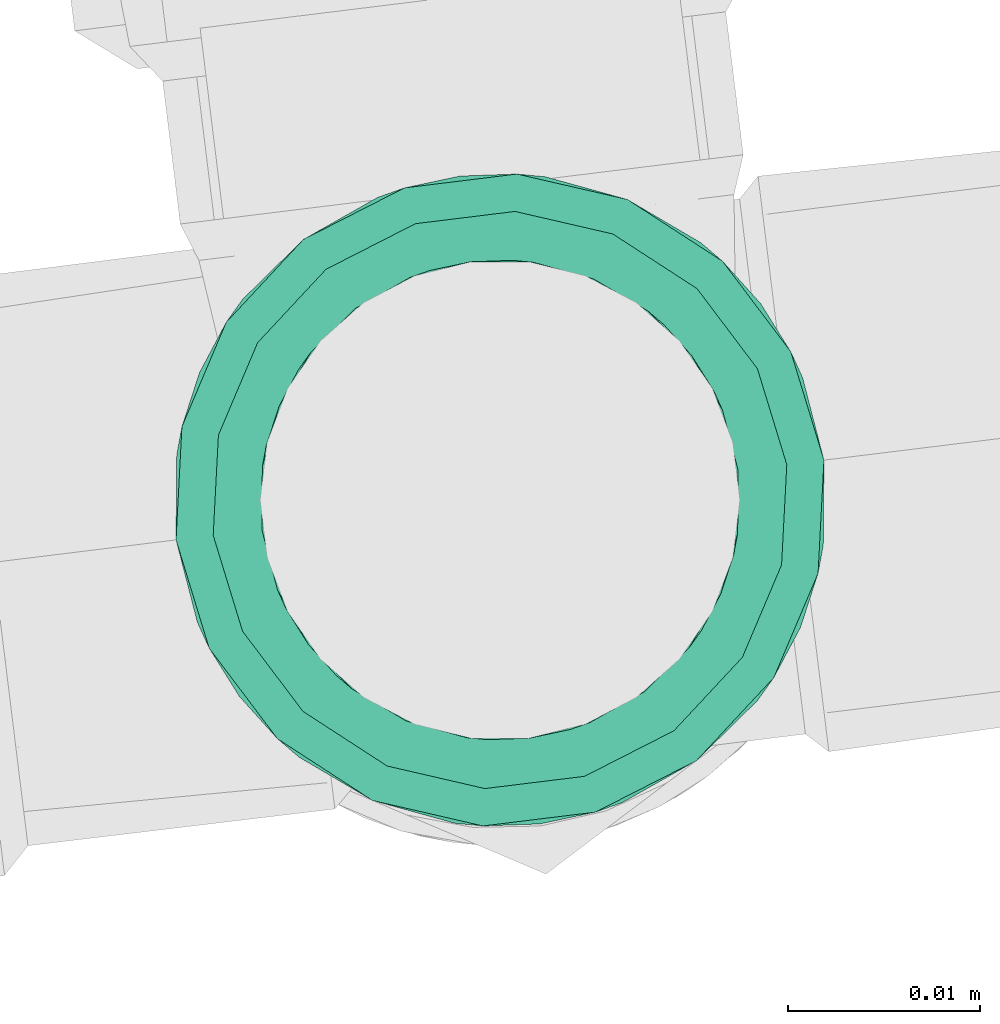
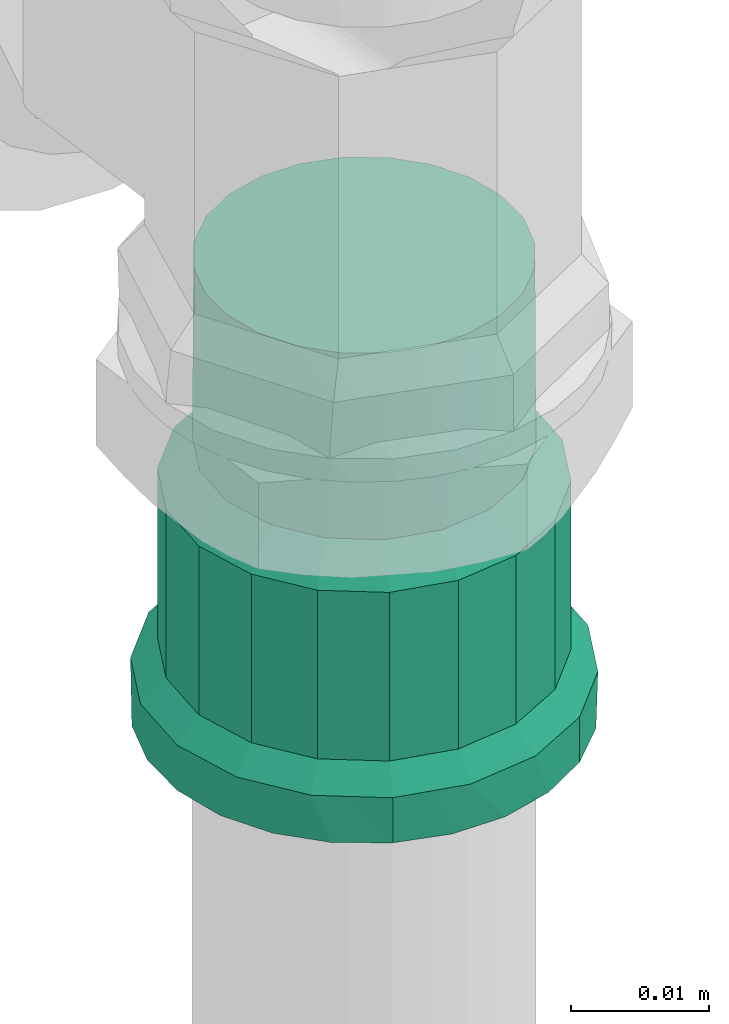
# One storey, part 88 of 97: 1 flow fitting.
"""IFC2X3 building model written with IfcOpenShell, lengths in centimetres."""

from ifc_helpers import new_model, entity, si_unit, converted_unit, derived_unit, direction, frame, origin, place, context, subcontext, project, spatial, faceted_brep, source, transform, mapped, material, type_object, type_shapes, element, save


model = new_model("IFC2X3")

# Units and contexts
model_context = context("Model", 3, precision=0.001, world=origin(), true_north=direction((6.12303176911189e-17, 1.0)))
body_context = subcontext(model_context, "Body", "Model", "MODEL_VIEW")
ifc_project = project(units=[si_unit("LENGTHUNIT", "METRE", prefix="CENTI"), si_unit("AREAUNIT", "SQUARE_METRE"), si_unit("VOLUMEUNIT", "CUBIC_METRE"), converted_unit("PLANEANGLEUNIT", "DEGREE", entity("IfcRatioMeasure", 0.0174532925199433), si_unit("PLANEANGLEUNIT", "RADIAN"), dimensions=[0, 0, 0, 0, 0, 0, 0]), si_unit("MASSUNIT", "GRAM", prefix="KILO"), derived_unit("MASSDENSITYUNIT", [(si_unit("MASSUNIT", "GRAM", prefix="KILO"), 1), (si_unit("LENGTHUNIT", "METRE"), -3)]), derived_unit("MOMENTOFINERTIAUNIT", [(si_unit("LENGTHUNIT", "METRE"), 4)]), si_unit("TIMEUNIT", "SECOND"), si_unit("FREQUENCYUNIT", "HERTZ"), si_unit("THERMODYNAMICTEMPERATUREUNIT", "DEGREE_CELSIUS"), derived_unit("THERMALTRANSMITTANCEUNIT", [(si_unit("MASSUNIT", "GRAM", prefix="KILO"), 1), (si_unit("THERMODYNAMICTEMPERATUREUNIT", "KELVIN"), -1), (si_unit("TIMEUNIT", "SECOND"), -3)]), derived_unit("VOLUMETRICFLOWRATEUNIT", [(si_unit("LENGTHUNIT", "METRE"), 3), (si_unit("TIMEUNIT", "SECOND"), -1)]), si_unit("ELECTRICCURRENTUNIT", "AMPERE"), si_unit("ELECTRICVOLTAGEUNIT", "VOLT"), si_unit("POWERUNIT", "WATT"), si_unit("FORCEUNIT", "NEWTON", prefix="KILO"), si_unit("ILLUMINANCEUNIT", "LUX"), si_unit("LUMINOUSFLUXUNIT", "LUMEN"), si_unit("LUMINOUSINTENSITYUNIT", "CANDELA"), derived_unit("USERDEFINED", [(si_unit("MASSUNIT", "GRAM", prefix="KILO"), -1), (si_unit("LENGTHUNIT", "METRE"), -2), (si_unit("TIMEUNIT", "SECOND"), 3), (si_unit("LUMINOUSFLUXUNIT", "LUMEN"), 1)]), derived_unit("LINEARVELOCITYUNIT", [(si_unit("LENGTHUNIT", "METRE"), 1), (si_unit("TIMEUNIT", "SECOND"), -1)]), si_unit("PRESSUREUNIT", "PASCAL"), derived_unit("USERDEFINED", [(si_unit("LENGTHUNIT", "METRE"), -2), (si_unit("MASSUNIT", "GRAM", prefix="KILO"), 1), (si_unit("TIMEUNIT", "SECOND"), -2)]), derived_unit("LINEARFORCEUNIT", [(si_unit("MASSUNIT", "GRAM", prefix="KILO"), 1), (si_unit("LENGTHUNIT", "METRE"), 1), (si_unit("TIMEUNIT", "SECOND"), -2), (si_unit("LENGTHUNIT", "METRE"), -1)]), derived_unit("PLANARFORCEUNIT", [(si_unit("MASSUNIT", "GRAM", prefix="KILO"), 1), (si_unit("LENGTHUNIT", "METRE"), 1), (si_unit("TIMEUNIT", "SECOND"), -2), (si_unit("LENGTHUNIT", "METRE"), -2)])], contexts=[model_context])

# Site, building, storey
site_placement = place(None, origin())
site = spatial("IfcSite", under=ifc_project, at=site_placement, Name="Default", CompositionType="ELEMENT")
building_placement = place(site_placement, origin())
building = spatial("IfcBuilding", under=site, at=building_placement, Name="HIDROSSANITÁRIO", CompositionType="ELEMENT")
storey_placement = place(building_placement, frame((0.0, 0.0, -260.0)))
storey = spatial("IfcBuildingStorey", under=building, at=storey_placement, Name="TÉRREO-HID", CompositionType="ELEMENT", Elevation=-260.0)

# Flow fitting
ifc_material = material(Name="PVC Marrom")
pipe_fitting_type = type_object("IfcPipeFittingType", Name="PVC Marrom Soldável_Adaptador Curto com Bolsa e Rosca Aninhado:Adaptador", PredefinedType="NOTDEFINED", material=ifc_material)
shared_shape = source(origin(), body_context, "Body", "Brep", [
    faceted_brep([(0.0, -0.850000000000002, -1.47224318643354), (0.0, -1.20208152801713, -1.20208152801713), (0.0, -0.624999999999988, -1.08253175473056), (0.0, -0.323523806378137, -1.20740728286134), (0.0, -0.439992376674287, -1.64207390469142), (0.0, -0.883883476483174, -0.883883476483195), (0.0, -1.47224318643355, -0.849999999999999), (0.0, -1.08253175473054, -0.625000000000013), (0.0, -1.20740728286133, -0.323523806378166), (0.0, -1.64207390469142, -0.439992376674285), (0.0, -1.25, 0.0), (0.0, -1.7, 0.0), (0.0, -1.20740728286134, 0.323523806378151), (0.0, -1.64207390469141, 0.439992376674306), (0.0, -1.08253175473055, 0.625), (0.0, -1.47224318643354, 0.850000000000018), (0.0, -0.883883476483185, 0.883883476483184), (0.0, -1.20208152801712, 1.20208152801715), (0.0, -0.625000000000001, 1.08253175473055), (0.0, -0.849999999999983, 1.47224318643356), (0.0, -0.323523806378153, 1.20740728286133), (0.0, -0.439992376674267, 1.64207390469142), (0.0, 0.0, 1.25), (0.0, 0.0, 1.7), (0.0, 0.323523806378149, 1.20740728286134), (0.0, 0.439992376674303, 1.64207390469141), (0.0, 0.624999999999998, 1.08253175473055), (0.0, 0.850000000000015, 1.47224318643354), (0.0, 0.883883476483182, 0.883883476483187), (0.0, 1.20208152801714, 1.20208152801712), (0.0, 1.08253175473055, 0.625000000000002), (0.0, 1.47224318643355, 0.849999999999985), (0.0, 1.64207390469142, 0.439992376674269), (0.0, 1.20740728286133, 0.323523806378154), (0.0, 1.7, 0.0), (0.0, 1.25, 0.0), (0.0, 1.64207390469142, -0.43999237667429), (0.0, 1.20740728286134, -0.323523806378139), (0.0, 1.47224318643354, -0.850000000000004), (0.0, 1.08253175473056, -0.624999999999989), (0.0, 1.20208152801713, -1.20208152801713), (0.0, 0.883883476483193, -0.883883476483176), (0.0, 0.849999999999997, -1.47224318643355), (0.0, 0.625000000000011, -1.08253175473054), (0.0, 0.439992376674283, -1.64207390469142), (0.0, 0.323523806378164, -1.20740728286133), (0.0, 0.0, -1.7), (0.0, 0.0, -1.25), (0.399999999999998, 1.59746124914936, 0.581478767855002), (0.399999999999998, 1.64873062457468, 0.290739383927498), (0.399999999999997, 1.07604576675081, 1.28256289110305), (0.399999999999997, 1.30221463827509, 1.09281152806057), (0.399999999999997, 1.44983794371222, 0.837145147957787), (0.399999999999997, 0.57244607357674, 1.57326016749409), (0.399999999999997, 0.295015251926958, 1.67420608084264), (0.399999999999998, 1.659968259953, 0.227012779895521), (0.399999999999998, 1.7, 0.0), (0.399999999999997, 0.849876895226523, 1.47231425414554), (0.399999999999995, -0.850246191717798, 1.47210102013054), (0.399999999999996, -0.572840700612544, 1.57311652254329), (0.399999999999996, -0.295435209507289, 1.67413202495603), (0.399999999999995, -1.30248872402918, 1.09248483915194), (0.399999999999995, -1.07636745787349, 1.28229292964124), (0.399999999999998, -1.7, 0.0), (0.399999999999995, -1.5976070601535, 0.581078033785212), (0.399999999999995, -1.45004789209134, 0.836781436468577), (0.399999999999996, -0.000209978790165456, 1.67416905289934), (0.400000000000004, -1.59760706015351, -0.581078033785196), (0.400000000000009, -1.0763674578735, -1.28229292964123), (0.400000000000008, -1.30248872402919, -1.09248483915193), (0.400000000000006, -1.45004789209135, -0.836781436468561), (0.40000000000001, -0.572840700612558, -1.57311652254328), (0.400000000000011, -0.295435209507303, -1.67413202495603), (0.40000000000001, -0.850246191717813, -1.47210102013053), (0.4, 1.64873062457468, -0.290739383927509), (0.400000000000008, 0.849876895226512, -1.47231425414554), (0.400000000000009, 0.572446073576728, -1.57326016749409), (0.40000000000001, 0.295015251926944, -1.67420608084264), (0.400000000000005, 1.30221463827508, -1.09281152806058), (0.400000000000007, 1.0760457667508, -1.28256289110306), (0.400000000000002, 1.59746124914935, -0.581478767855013), (0.400000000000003, 1.44983794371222, -0.837145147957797), (0.40000000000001, -0.000209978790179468, -1.67416905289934), (0.399999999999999, 1.65996825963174, -0.227012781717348), (2.085, 1.45359735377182, 0.29149513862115), (2.085, 1.45961152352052, 0.257389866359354), (2.085, 1.505, 0.0), (0.590000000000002, 1.505, 0.0), (0.590000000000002, 1.45961152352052, 0.257389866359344), (0.590000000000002, 1.41422304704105, 0.514779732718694), (2.085, 1.41422304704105, 0.514779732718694), (2.08499999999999, 0.952616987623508, 1.13544538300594), (2.08499999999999, 1.15284295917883, 0.967459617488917), (0.590000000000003, 1.15284295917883, 0.967459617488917), (0.590000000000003, 0.952616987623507, 1.13544538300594), (0.590000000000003, 0.752391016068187, 1.30343114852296), (2.08499999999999, 0.752391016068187, 1.30343114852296), (2.085, 1.28353300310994, 0.741119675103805), (0.590000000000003, 1.28353300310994, 0.741119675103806), (2.08499999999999, 0.261175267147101, 1.48216479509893), (2.08499999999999, 0.506783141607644, 1.39279797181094), (0.590000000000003, 0.506783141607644, 1.39279797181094), (0.590000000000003, 0.261175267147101, 1.48216479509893), (2.08499999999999, -0.261547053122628, 1.48209923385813), (2.08499999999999, -0.000185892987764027, 1.48213201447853), (0.590000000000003, -0.000185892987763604, 1.48213201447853), (0.590000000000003, -0.261547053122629, 1.48209923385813), (2.08499999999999, -0.507132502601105, 1.39267080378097), (0.590000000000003, -0.507132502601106, 1.39267080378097), (0.590000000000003, -0.752717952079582, 1.3032423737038), (2.08499999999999, -0.75271795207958, 1.3032423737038), (0.590000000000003, -0.952901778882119, 1.1352063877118), (0.590000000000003, -1.15308560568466, 0.967170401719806), (2.08499999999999, -1.15308560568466, 0.967170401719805), (2.08499999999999, -0.952901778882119, 1.1352063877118), (2.085, -1.28371886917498, 0.740797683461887), (0.590000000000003, -1.28371886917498, 0.740797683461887), (0.590000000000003, -1.4143521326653, 0.514424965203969), (2.085, -1.4143521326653, 0.514424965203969), (0.590000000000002, -1.505, 0.0), (2.085, -1.505, 0.0), (2.08500000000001, -1.41435213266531, -0.514424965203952), (0.590000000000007, -1.41435213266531, -0.514424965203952), (2.08500000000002, -0.752717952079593, -1.3032423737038), (2.08500000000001, -0.95290177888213, -1.13520638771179), (2.08500000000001, -1.15308560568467, -0.967170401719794), (0.59000000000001, -1.15308560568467, -0.967170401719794), (0.590000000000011, -0.95290177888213, -1.13520638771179), (0.590000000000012, -0.752717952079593, -1.3032423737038), (0.590000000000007, 1.28353300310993, -0.741119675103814), (0.590000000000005, 1.41422304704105, -0.514779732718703), (2.08500000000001, 1.41422304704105, -0.514779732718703), (2.08500000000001, 1.28353300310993, -0.741119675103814), (2.08500000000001, 1.15284295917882, -0.967459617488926), (0.590000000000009, 1.15284295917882, -0.967459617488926), (0.590000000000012, 0.506783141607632, -1.39279797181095), (0.590000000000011, 0.752391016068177, -1.30343114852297), (2.08500000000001, 0.752391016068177, -1.30343114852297), (2.08500000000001, 0.506783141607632, -1.39279797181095), (2.08500000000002, 0.261175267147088, -1.48216479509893), (0.590000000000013, 0.261175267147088, -1.48216479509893), (2.08500000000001, -1.28371886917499, -0.740797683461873), (0.590000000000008, -1.28371886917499, -0.740797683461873), (2.08500000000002, -0.261547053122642, -1.48209923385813), (2.08500000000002, -0.507132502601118, -1.39267080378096), (0.590000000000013, -0.507132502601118, -1.39267080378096), (0.590000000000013, -0.261547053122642, -1.48209923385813), (0.590000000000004, 1.45961152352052, -0.257389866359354), (2.085, 1.46677519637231, -0.216765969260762), (2.085, 1.45359734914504, -0.291495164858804), (0.59000000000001, 0.952616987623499, -1.13544538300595), (2.08500000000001, 0.952616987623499, -1.13544538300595), (2.08500000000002, -0.000185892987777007, -1.48213201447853), (0.590000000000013, -0.000185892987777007, -1.48213201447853), (4.03, 0.0, -1.25), (4.03, 0.323523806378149, -1.20740728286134), (4.03, 0.624999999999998, -1.08253175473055), (4.03, 0.883883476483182, -0.883883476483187), (4.03, 1.08253175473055, -0.625000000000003), (4.03, 1.20740728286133, -0.323523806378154), (4.03, 1.25, 0.0), (4.03, 1.20740728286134, 0.323523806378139), (4.03, 1.08253175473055, 0.624999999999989), (4.03, 0.883883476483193, 0.883883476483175), (4.03, 0.625000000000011, 1.08253175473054), (4.03, 0.323523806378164, 1.20740728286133), (4.03, 0.0, 1.25), (4.03, -0.323523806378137, 1.20740728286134), (4.03, -0.624999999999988, 1.08253175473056), (4.03, -0.883883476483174, 0.883883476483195), (4.03, -1.08253175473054, 0.625000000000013), (4.03, -1.20740728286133, 0.323523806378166), (4.03, -1.25, 0.0), (4.03, -1.20740728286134, -0.323523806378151), (4.03, -1.08253175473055, -0.624999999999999), (4.03, -0.883883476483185, -0.883883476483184), (4.03, -0.625000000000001, -1.08253175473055), (4.03, -0.323523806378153, -1.20740728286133), (2.375, 1.25, 0.0), (2.37499999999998, 0.957510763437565, 0.803537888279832), (2.37499999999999, 1.17460385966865, 0.427557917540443), (2.37499999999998, 0.624909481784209, 1.08258401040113), (2.37499999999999, 1.06605731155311, 0.615547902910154), (2.375, 1.21825182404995, 0.180038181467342), (2.37499999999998, 0.420916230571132, 1.15680894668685), (2.37499999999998, 0.216922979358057, 1.23103388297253), (2.37499999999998, 0.791210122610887, 0.943060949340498), (2.37499999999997, -0.217231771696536, 1.23097943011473), (2.37499999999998, -0.625181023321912, 1.08242722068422), (2.37499999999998, -0.957712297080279, 0.803297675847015), (2.37499999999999, -1.17471107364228, 0.427263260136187), (2.37499999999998, -0.791446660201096, 0.94286244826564), (2.37499999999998, -0.421206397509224, 1.1567033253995), (2.375, -1.25, 0.0), (2.37499999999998, -1.06621168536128, 0.615280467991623), (2.37499999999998, -0.000154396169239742, 1.23100665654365), (2.37500000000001, -0.957712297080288, -0.803297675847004), (2.375, -1.17471107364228, -0.427263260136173), (2.37500000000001, -0.625181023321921, -1.08242722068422), (2.37500000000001, -1.06621168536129, -0.615280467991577), (2.37500000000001, -0.421206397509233, -1.15670332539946), (2.37500000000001, -0.217231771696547, -1.23097943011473), (2.37500000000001, -0.791446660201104, -0.942862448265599), (2.37500000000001, 0.216922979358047, -1.23103388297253), (2.37500000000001, 0.6249094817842, -1.08258401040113), (2.375, 0.957510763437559, -0.803537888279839), (2.375, 1.17460385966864, -0.427557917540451), (2.37500000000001, 0.79121012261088, -0.943060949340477), (2.37500000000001, 0.420916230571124, -1.15680894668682), (2.375, 1.21230192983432, -0.213778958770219), (2.375, 1.0660573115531, -0.615547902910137), (2.37500000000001, -0.00015439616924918, -1.23100665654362), (0.590000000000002, 1.20740728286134, -0.323523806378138), (2.085, 1.20740728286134, -0.323523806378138), (2.085, 1.25, 0.0), (0.590000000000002, 1.25, 0.0), (0.399999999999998, 1.25, 0.0), (0.399999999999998, 1.20740728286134, -0.323523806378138), (0.590000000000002, 1.08253175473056, -0.624999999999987), (2.085, 1.08253175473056, -0.624999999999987), (0.399999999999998, 1.08253175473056, -0.624999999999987), (2.085, 0.625000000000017, -1.08253175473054), (2.085, 0.883883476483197, -0.883883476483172), (0.590000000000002, 0.883883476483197, -0.883883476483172), (0.399999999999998, 0.883883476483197, -0.883883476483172), (0.399999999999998, 0.625000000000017, -1.08253175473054), (0.590000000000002, 0.625000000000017, -1.08253175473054), (2.085, 0.32352380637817, -1.20740728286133), (0.399999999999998, 0.32352380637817, -1.20740728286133), (0.590000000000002, 0.32352380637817, -1.20740728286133), (2.085, 0.0, -1.25), (0.399999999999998, 0.0, -1.25), (0.590000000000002, 0.0, -1.25), (0.590000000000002, -0.323523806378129, -1.20740728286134), (2.085, -0.323523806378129, -1.20740728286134), (0.399999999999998, -0.323523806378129, -1.20740728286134), (0.590000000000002, -0.624999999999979, -1.08253175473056), (2.085, -0.624999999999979, -1.08253175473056), (0.399999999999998, -0.624999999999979, -1.08253175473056), (2.085, -1.08253175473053, -0.625000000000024), (2.085, -0.883883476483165, -0.883883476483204), (0.590000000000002, -0.883883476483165, -0.883883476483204), (0.399999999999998, -0.883883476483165, -0.883883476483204), (0.399999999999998, -1.08253175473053, -0.625000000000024), (0.590000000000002, -1.08253175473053, -0.625000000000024), (2.085, -1.20740728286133, -0.323523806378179), (0.399999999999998, -1.20740728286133, -0.323523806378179), (0.590000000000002, -1.20740728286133, -0.323523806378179), (2.085, -1.25, 0.0), (0.399999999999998, -1.25, 0.0), (0.590000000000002, -1.25, 0.0), (0.590000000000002, -1.20740728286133, 0.323523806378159), (2.085, -1.20740728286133, 0.323523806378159), (0.399999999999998, -1.20740728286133, 0.323523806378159), (0.590000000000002, -1.08253175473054, 0.625000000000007), (2.085, -1.08253175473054, 0.625000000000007), (0.399999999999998, -1.08253175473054, 0.625000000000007), (2.085, -0.624999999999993, 1.08253175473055), (2.085, -0.883883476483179, 0.88388347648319), (0.590000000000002, -0.883883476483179, 0.88388347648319), (0.399999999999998, -0.883883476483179, 0.88388347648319), (0.399999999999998, -0.624999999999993, 1.08253175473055), (0.590000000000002, -0.624999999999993, 1.08253175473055), (2.085, -0.323523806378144, 1.20740728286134), (0.399999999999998, -0.323523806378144, 1.20740728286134), (0.590000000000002, -0.323523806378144, 1.20740728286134), (2.085, 0.0, 1.25), (0.399999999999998, 0.0, 1.25), (0.590000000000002, 0.0, 1.25), (0.590000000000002, 0.323523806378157, 1.20740728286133), (2.085, 0.323523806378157, 1.20740728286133), (0.399999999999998, 0.323523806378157, 1.20740728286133), (0.590000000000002, 0.625000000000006, 1.08253175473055), (2.085, 0.625000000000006, 1.08253175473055), (0.399999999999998, 0.625000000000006, 1.08253175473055), (2.085, 1.08253175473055, 0.624999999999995), (2.085, 0.883883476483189, 0.88388347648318), (0.590000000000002, 0.883883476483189, 0.88388347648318), (0.399999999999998, 0.883883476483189, 0.88388347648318), (0.399999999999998, 1.08253175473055, 0.624999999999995), (0.590000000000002, 1.08253175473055, 0.624999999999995), (2.085, 1.20740728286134, 0.323523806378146), (0.399999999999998, 1.20740728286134, 0.323523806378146), (0.590000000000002, 1.20740728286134, 0.323523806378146)], [[[0, 1, 2]], [[0, 2, 3]], [[3, 4, 0]], [[2, 1, 5]], [[6, 5, 1]], [[7, 5, 6]], [[8, 7, 6]], [[8, 6, 9]], [[8, 9, 10]], [[10, 9, 11]], [[12, 10, 11]], [[12, 11, 13]], [[14, 12, 13]], [[14, 13, 15]], [[16, 14, 15]], [[15, 17, 16]], [[17, 18, 16]], [[18, 17, 19]], [[18, 19, 20]], [[21, 20, 19]], [[20, 21, 22]], [[22, 21, 23]], [[23, 24, 22]], [[24, 23, 25]], [[24, 25, 26]], [[27, 26, 25]], [[27, 28, 26]], [[27, 29, 28]], [[30, 28, 29]], [[31, 30, 29]], [[32, 30, 31]], [[33, 30, 32]], [[33, 32, 34]], [[34, 35, 33]], [[36, 35, 34]], [[36, 37, 35]], [[37, 36, 38]], [[39, 37, 38]], [[39, 38, 40]], [[39, 40, 41]], [[40, 42, 41]], [[41, 42, 43]], [[43, 42, 44]], [[44, 45, 43]], [[46, 45, 44]], [[4, 47, 46]], [[45, 46, 47]], [[4, 3, 47]], [[32, 48, 49]], [[50, 51, 29]], [[52, 48, 31, 51]], [[53, 25, 54]], [[48, 32, 31]], [[34, 49, 55, 56]], [[27, 57, 50]], [[29, 27, 50]], [[29, 51, 31]], [[19, 58, 59]], [[21, 19, 59]], [[53, 57, 27]], [[25, 53, 27]], [[54, 25, 23]], [[32, 49, 34]], [[59, 60, 21]], [[61, 62, 17]], [[63, 64, 13]], [[65, 61, 15, 64]], [[11, 63, 13]], [[17, 62, 19]], [[66, 54, 23, 60]], [[21, 60, 23]], [[61, 17, 15]], [[19, 62, 58]], [[13, 64, 15]], [[67, 63, 9]], [[68, 69, 1]], [[70, 67, 6, 69]], [[71, 4, 72]], [[67, 9, 6]], [[63, 11, 9]], [[4, 71, 0]], [[0, 73, 68]], [[1, 69, 6]], [[36, 34, 74]], [[42, 75, 76]], [[71, 73, 0]], [[44, 42, 76]], [[72, 4, 46]], [[1, 0, 68]], [[76, 77, 44]], [[78, 79, 40]], [[74, 80, 36]], [[81, 78, 38, 80]], [[36, 80, 38]], [[40, 79, 42]], [[82, 72, 46, 77]], [[44, 77, 46]], [[78, 40, 38]], [[42, 79, 75]], [[34, 56, 83, 74]], [[84, 85, 86, 87, 88, 89, 90]], [[91, 92, 93, 94, 95, 96]], [[92, 97, 90, 89, 98, 93]], [[99, 100, 96, 95, 101, 102]], [[103, 104, 99, 102, 105, 106]], [[107, 103, 106, 108, 109, 110]], [[111, 112, 113, 114, 110, 109]], [[115, 113, 112, 116, 117, 118]], [[117, 119, 120, 118]], [[121, 120, 119, 122]], [[123, 124, 125, 126, 127, 128]], [[129, 130, 131, 132, 133, 134]], [[135, 136, 137, 138, 139, 140]], [[125, 141, 121, 122, 142, 126]], [[143, 144, 123, 128, 145, 146]], [[131, 130, 147, 87, 86, 148, 149]], [[150, 134, 133, 151, 137, 136]], [[139, 152, 143, 146, 153, 140]], [[154, 155, 156, 157, 158, 159, 160, 161, 162, 163, 164, 165, 166, 167, 168, 169, 170, 171, 172, 173, 174, 175, 176, 177]], [[161, 160, 178]], [[163, 162, 179]], [[180, 162, 161]], [[181, 164, 163]], [[162, 180, 182, 179]], [[161, 178, 183, 180]], [[165, 181, 184, 185]], [[163, 179, 186, 181]], [[166, 165, 185]], [[165, 164, 181]], [[166, 187, 167]], [[167, 188, 168]], [[170, 169, 189]], [[188, 169, 168]], [[171, 170, 190]], [[169, 188, 191, 189]], [[167, 187, 192, 188]], [[190, 193, 171]], [[170, 189, 194, 190]], [[193, 172, 171]], [[166, 185, 195, 187]], [[173, 172, 193]], [[175, 174, 196]], [[197, 174, 173]], [[198, 176, 175]], [[174, 197, 199, 196]], [[173, 193, 197]], [[177, 198, 200, 201]], [[175, 196, 202, 198]], [[154, 177, 201]], [[177, 176, 198]], [[154, 203, 155]], [[155, 204, 156]], [[158, 157, 205]], [[204, 157, 156]], [[159, 158, 206]], [[157, 204, 207, 205]], [[155, 203, 208, 204]], [[159, 206, 209, 178]], [[158, 205, 210, 206]], [[178, 160, 159]], [[154, 201, 211, 203]], [[212, 213, 214, 215, 216, 35, 37, 217]], [[218, 219, 213, 212, 217, 37, 39, 220]], [[221, 222, 223, 224, 41, 43, 225, 226]], [[218, 220, 39, 41, 224, 223, 222, 219]], [[227, 221, 226, 225, 43, 45, 228, 229]], [[230, 227, 229, 228, 45, 47, 231, 232]], [[233, 234, 230, 232, 231, 47, 3, 235]], [[236, 237, 234, 233, 235, 3, 2, 238]], [[239, 240, 241, 242, 5, 7, 243, 244]], [[236, 238, 2, 5, 242, 241, 240, 237]], [[245, 239, 244, 243, 7, 8, 246, 247]], [[248, 245, 247, 246, 8, 10, 249, 250]], [[251, 252, 248, 250, 249, 10, 12, 253]], [[254, 255, 252, 251, 253, 12, 14, 256]], [[257, 258, 259, 260, 16, 18, 261, 262]], [[254, 256, 14, 16, 260, 259, 258, 255]], [[263, 257, 262, 261, 18, 20, 264, 265]], [[266, 263, 265, 264, 20, 22, 267, 268]], [[269, 270, 266, 268, 267, 22, 24, 271]], [[272, 273, 270, 269, 271, 24, 26, 274]], [[275, 276, 277, 278, 28, 30, 279, 280]], [[272, 274, 26, 28, 278, 277, 276, 273]], [[281, 275, 280, 279, 30, 33, 282, 283]], [[214, 281, 283, 282, 33, 35, 216, 215]], [[63, 67, 122, 119]], [[145, 128, 73, 71, 72, 146]], [[68, 73, 128, 127, 126, 69]], [[126, 142, 122, 67, 70, 69]], [[76, 75, 136, 135, 140, 77]], [[81, 80, 130, 129, 134, 78]], [[147, 130, 80, 74, 83, 56, 87]], [[140, 153, 146, 72, 82, 77]], [[134, 150, 136, 75, 79, 78]], [[89, 88, 87, 56, 55, 49, 48]], [[98, 89, 48, 52, 51, 93]], [[94, 93, 51, 50, 57, 95]], [[57, 53, 54, 102, 101, 95]], [[66, 60, 106, 105, 102, 54]], [[58, 109, 108, 106, 60, 59]], [[63, 119, 117, 64]], [[61, 65, 64, 117, 116, 112]], [[58, 62, 61, 112, 111, 109]], [[227, 230, 234, 237, 240, 239, 245, 248, 252, 255, 258, 257, 263, 266, 270, 273, 276, 275, 281, 214, 213, 219, 222, 221]], [[180, 183, 178, 86, 85, 84, 90]], [[100, 99, 185, 184, 181, 96]], [[181, 186, 179, 92, 91, 96]], [[179, 182, 180, 90, 97, 92]], [[104, 103, 187, 195, 185, 99]], [[115, 118, 190, 194, 189, 113]], [[107, 110, 188, 192, 187, 103]], [[118, 120, 193, 190]], [[189, 191, 188, 110, 114, 113]], [[120, 121, 197, 193]], [[200, 198, 123, 144, 143, 201]], [[124, 123, 198, 202, 196, 125]], [[196, 199, 197, 121, 141, 125]], [[138, 137, 204, 208, 203, 139]], [[132, 131, 206, 210, 205, 133]], [[209, 206, 131, 149, 148, 86, 178]], [[203, 211, 201, 143, 152, 139]], [[205, 207, 204, 137, 151, 133]]]),
])
type_shapes(pipe_fitting_type, [shared_shape])
flow_fitting_placement = place(storey_placement, frame((-1655.06244479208, 3152.17622329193, 174.525), z_axis=(-0.122152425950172, 0.992511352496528, 0.0), x_axis=(0.0, 0.0, 1.0)))
element("IfcFlowFitting", 1, at=flow_fitting_placement, inside=storey, type_object=pipe_fitting_type, material=ifc_material, Name="PVC Marrom Soldável_Adaptador Curto com Bolsa e Rosca Aninhado:Adaptador", ObjectType="PVC Marrom Soldável_Adaptador Curto com Bolsa e Rosca Aninhado:Adaptador", context=body_context, shape_type="MappedRepresentation", body=[
    mapped(shared_shape, transform((0.0, 0.0, 0.0), scale=1.0)),
])

save(model, "model.ifc")
